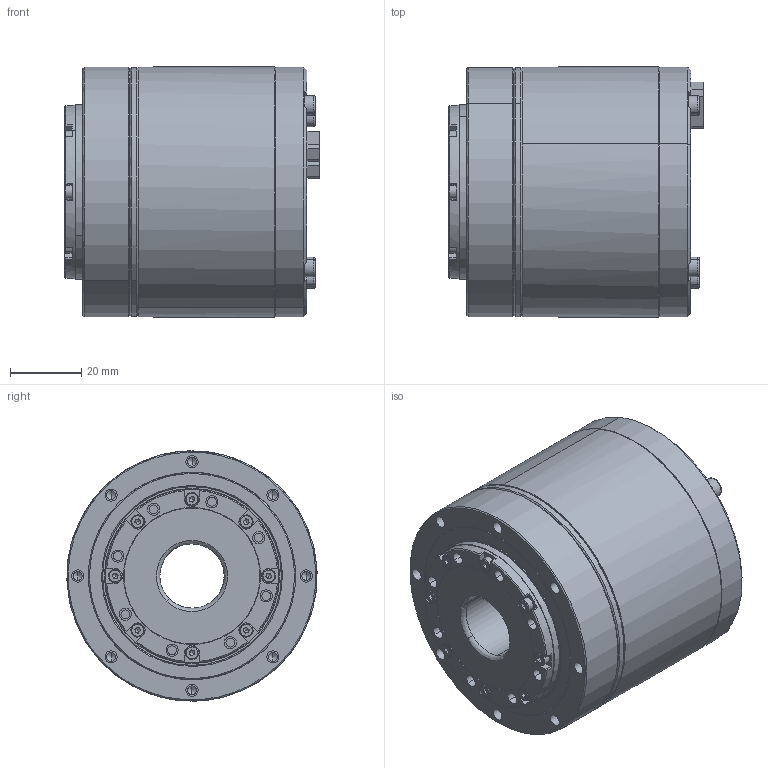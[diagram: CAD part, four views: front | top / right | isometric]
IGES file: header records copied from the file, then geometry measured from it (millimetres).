
Start section: SolidWorks IGES file using analytic representation for surfaces
Global section: file name: 87HG:\李鸿彬\00 官网需更新模型\00官网需更新模型 源文件\官网更新3D\I型\eRob70F 扁平型\eRob70F 扁平型 带刹车（V3）\eRob70F××I-B-XX-18EX_V3_MC2A.BX.XX\eRob70F××I-B-XX-18EX_V3_MC2A.BX.XX.IGS; native system: SolidWorks 2021; preprocessor: SolidWorks 2021; author: ZERO; date: 250401.193407; units: millimetre
Bounding box: 71.1 x 69.98 x 70 mm (x, y, z)
Volume: 227886.1 mm3; surface area: 33998 mm2
Topology: 1 solids, 1 shells, 2692 faces, 7262 edges, 4719 vertices
Faces by surface type: plane 1955, revolution 408, bspline 329
